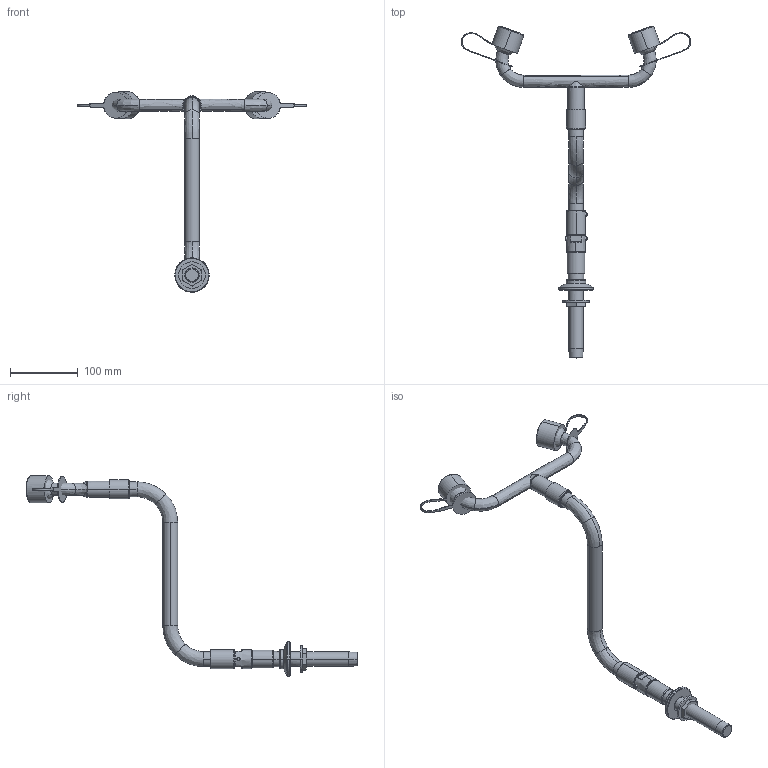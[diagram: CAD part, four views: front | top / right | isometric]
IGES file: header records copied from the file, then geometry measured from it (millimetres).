
Start section:  PTC IGES file: 8411-nf_REV032917.igs
Global section: file name: 8411-nf_REV032917.igs; native system: Creo Parametric by PTC Inc.; preprocessor: 2014500; author: dmisv; organization: Unknown; date: 20170330.122857; units: inch
Bounding box: 337.84 x 488.59 x 295.26 mm (x, y, z)
Surface area: 97022.3 mm2 (no closed solid volume)
Topology: 0 solids, 30 shells, 355 faces, 1041 edges, 700 vertices
Faces by surface type: revolution 260, bspline 77, extrusion 18
